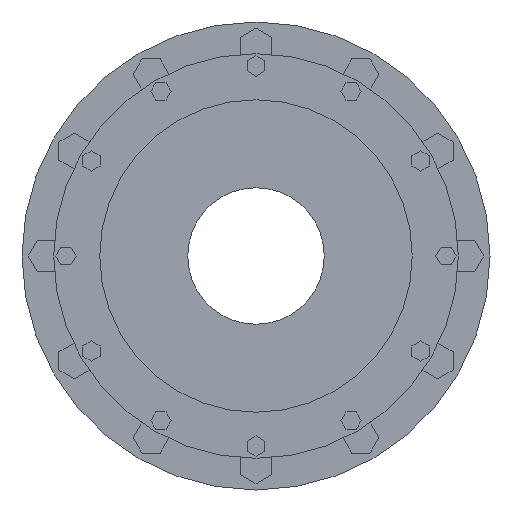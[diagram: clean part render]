
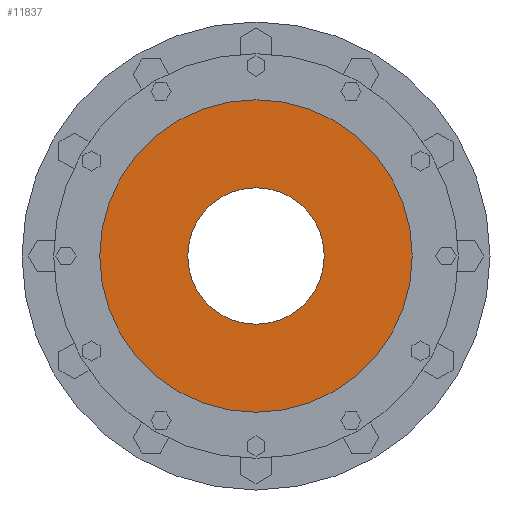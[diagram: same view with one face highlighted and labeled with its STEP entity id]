
A CAD part, left-side view. The second image highlights one B-rep face of the part: STEP entity #11837.
In plain terms, the highlighted planar face has unit normal (-1, 0, 0) as drawn and (1, 0, 0) by its records, which use the part's own axes.
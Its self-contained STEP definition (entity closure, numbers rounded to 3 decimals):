
#11661=CARTESIAN_POINT('',(-7.,0.,0.));
#11662=DIRECTION('',(1.,0.,0.));
#11663=DIRECTION('',(0.,1.,0.));
#11664=AXIS2_PLACEMENT_3D('',#11661,#11662,#11663);
#11671=CARTESIAN_POINT('',(-7.,0.,0.));
#11672=DIRECTION('',(-1.,0.,0.));
#11673=DIRECTION('',(0.,1.,0.));
#11674=AXIS2_PLACEMENT_3D('',#11671,#11672,#11673);
#11676=CARTESIAN_POINT('',(-7.,0.,0.));
#11677=DIRECTION('',(1.,0.,0.));
#11678=DIRECTION('',(0.,1.,0.));
#11679=AXIS2_PLACEMENT_3D('',#11676,#11677,#11678);
#11755=CARTESIAN_POINT('',(-7.,0.,0.));
#11756=DIRECTION('',(1.,0.,0.));
#11757=DIRECTION('',(0.,-1.,0.));
#11758=AXIS2_PLACEMENT_3D('',#11755,#11756,#11757);
#11782=CARTESIAN_POINT('',(-7.,160.25,0.));
#11784=VERTEX_POINT('',#11782);
#11786=CARTESIAN_POINT('',(-7.,-160.25,0.));
#11788=VERTEX_POINT('',#11786);
#11793=CARTESIAN_POINT('',(-7.,70.,0.));
#11794=CARTESIAN_POINT('',(-7.,-70.,0.));
#11795=VERTEX_POINT('',#11793);
#11796=VERTEX_POINT('',#11794);
#11821=CARTESIAN_POINT('',(-7.,0.,0.));
#11822=DIRECTION('',(1.,0.,0.));
#11823=DIRECTION('',(0.,-1.,0.));
#11824=AXIS2_PLACEMENT_3D('',#11821,#11822,#11823);
#11825=PLANE('',#11824);
#11827=ORIENTED_EDGE('',*,*,#11826,.T.);
#11829=ORIENTED_EDGE('',*,*,#11828,.F.);
#11830=EDGE_LOOP('',(#11827,#11829));
#11831=FACE_OUTER_BOUND('',#11830,.F.);
#11832=ORIENTED_EDGE('',*,*,#11810,.T.);
#11834=ORIENTED_EDGE('',*,*,#11833,.T.);
#11835=EDGE_LOOP('',(#11832,#11834));
#11836=FACE_BOUND('',#11835,.F.);
#11837=ADVANCED_FACE('',(#11831,#11836),#11825,.T.);
#11665=CIRCLE('',#11664,70.);
#11675=CIRCLE('',#11674,160.25);
#11680=CIRCLE('',#11679,160.25);
#11759=CIRCLE('',#11758,70.);
#11810=EDGE_CURVE('',#11795,#11796,#11665,.T.);
#11826=EDGE_CURVE('',#11784,#11788,#11675,.T.);
#11828=EDGE_CURVE('',#11784,#11788,#11680,.T.);
#11833=EDGE_CURVE('',#11796,#11795,#11759,.T.);
